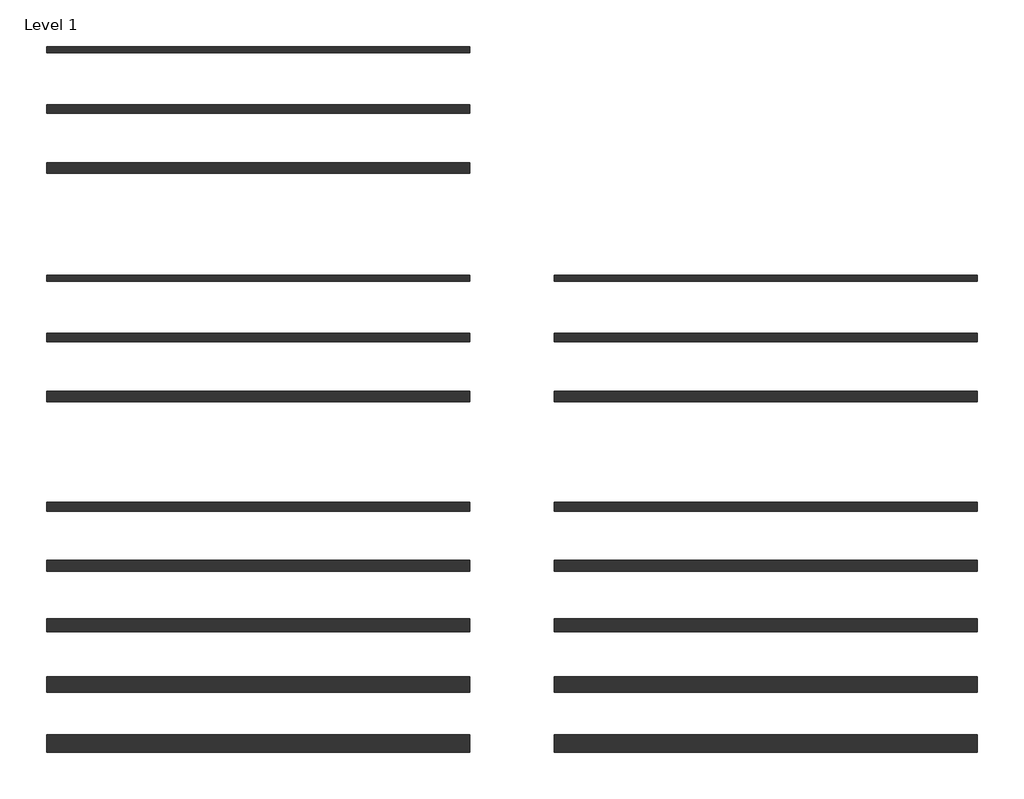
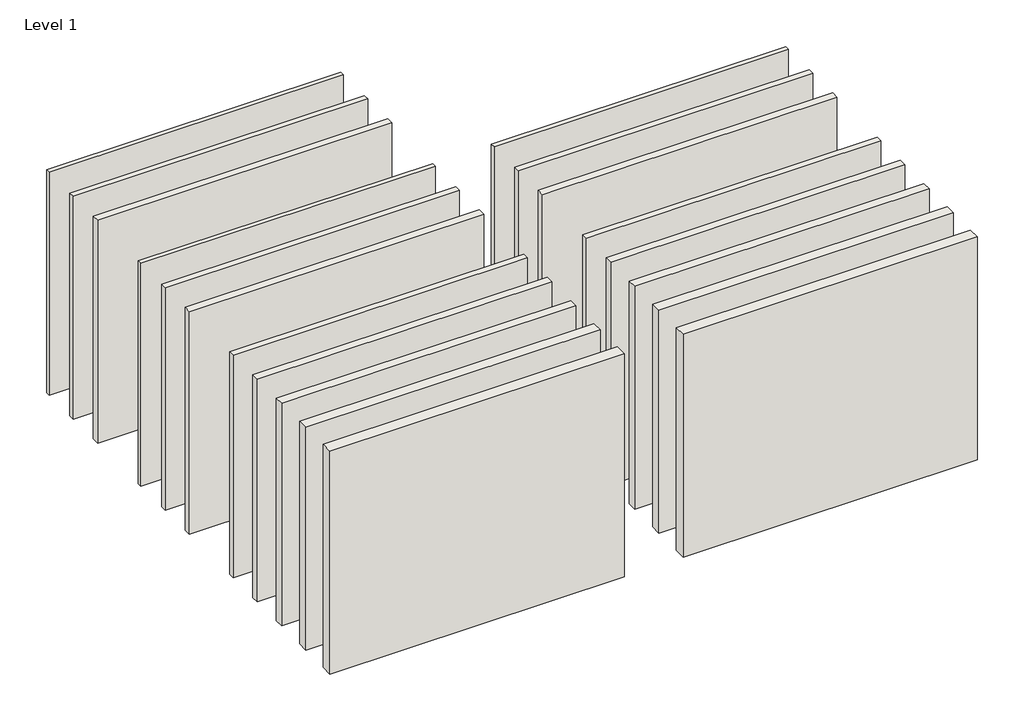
# One storey: 19 walls.
"""IFC4 building model written with IfcOpenShell, lengths in millimetres."""

import ifcopenshell
import ifcopenshell.guid

model = None  # the IFC model being written
_history = None  # IfcOwnerHistory: only IFC2X3 demands one
_inside = {}  # id of a spatial element -> (the spatial element, [elements in it])
_under = {}  # id of a project, library or spatial element -> (it, [spatial elements below it])
_declared = {}  # id of a project -> (the project, [libraries it declares])
_typed = {}  # id of a type object -> (the type object, [elements of that type])
_made_of = {}  # id of a material, layer set ... -> (it, [elements and type objects made of it])


def new_model(schema):
    """Start an empty IFC model of exactly this schema.

    Asked for "IFC4X3", IfcOpenShell would pick the latest addendum, in which some entities
    have other attributes; the version numbers below select the first issue.
    IFC2X3 requires an IfcOwnerHistory on every rooted entity: one is made here for all.
    """
    global model, _history
    if schema == "IFC4X3":
        model = ifcopenshell.file(schema_version=(4, 3, 0, 0))
    else:
        model = ifcopenshell.file(schema=schema)
    _inside.clear()
    _under.clear()
    _declared.clear()
    _typed.clear()
    _made_of.clear()
    _history = None
    if model.schema == "IFC2X3":
        org = make("IfcOrganization", Name="unknown")
        user = make(
            "IfcPersonAndOrganization",
            ThePerson=make("IfcPerson", FamilyName="unknown"),
            TheOrganization=org,
        )
        app = make(
            "IfcApplication",
            ApplicationDeveloper=org,
            Version="unknown",
            ApplicationFullName="unknown",
            ApplicationIdentifier="unknown",
        )
        _history = make(
            "IfcOwnerHistory",
            OwningUser=user,
            OwningApplication=app,
            ChangeAction="ADDED",
            CreationDate=0,
        )
    return model


def make(cls, **values):
    """One entity of the class cls with the attributes given. An attribute that is None is left unset."""
    return model.create_entity(
        cls, **{name: value for name, value in values.items() if value is not None}
    )


def rooted(cls, **values):
    """An entity with a GlobalId (a new one), such as an element, a storey or a relation."""
    return make(cls, GlobalId=ifcopenshell.guid.new(), OwnerHistory=_history, **values)


def si_unit(unit_type, name, prefix=None):
    """IfcSIUnit, for example si_unit("LENGTHUNIT", "METRE", prefix="MILLI")."""
    return make("IfcSIUnit", UnitType=unit_type, Prefix=prefix, Name=name)


def assignment(units):
    """IfcUnitAssignment: the units of a project."""
    return None if units is None else make("IfcUnitAssignment", Units=units)


def point(xyz):
    """IfcCartesianPoint."""
    return None if xyz is None else make("IfcCartesianPoint", Coordinates=xyz)


def direction(xyz):
    """IfcDirection."""
    return None if xyz is None else make("IfcDirection", DirectionRatios=xyz)


def frame(location, z_axis=None, x_axis=None):
    """IfcAxis2Placement3D, a coordinate frame: its origin and axes. An axis left out is left unset."""
    return make(
        "IfcAxis2Placement3D",
        Location=point(location),
        Axis=direction(z_axis),
        RefDirection=direction(x_axis),
    )


def origin():
    """The frame at (0, 0, 0) with its axes left unset."""
    return frame((0.0, 0.0, 0.0))


def origin_with_axes():
    """The frame at (0, 0, 0) with the z axis (0, 0, 1) and the x axis (1, 0, 0) written out."""
    return frame((0.0, 0.0, 0.0), z_axis=(0.0, 0.0, 1.0), x_axis=(1.0, 0.0, 0.0))


def place(relative_to, where):
    """IfcLocalPlacement: puts the frame where relative to a parent placement (None: the world)."""
    return make(
        "IfcLocalPlacement", PlacementRelTo=relative_to, RelativePlacement=where
    )


def context(
    kind, dimensions, precision=None, world=None, true_north=None, identifier=None
):
    """IfcGeometricRepresentationContext, for example the 3D "Model" context."""
    return make(
        "IfcGeometricRepresentationContext",
        ContextIdentifier=identifier,
        ContextType=kind,
        CoordinateSpaceDimension=dimensions,
        Precision=precision,
        WorldCoordinateSystem=world,
        TrueNorth=true_north,
    )


def project(units=None, contexts=None):
    """IfcProject with its units and contexts."""
    return rooted(
        "IfcProject",
        Name="project",
        RepresentationContexts=contexts,
        UnitsInContext=assignment(units),
    )


def spatial(cls, under=None, at=None, **own):
    """A site, building, storey or space (cls), placed at a placement, below another one or the project."""
    s = rooted(cls, ObjectPlacement=at, **own)
    if under is not None:
        _under.setdefault(under.id(), (under, []))[1].append(s)
    return s


def polyline(points):
    """IfcPolyline through the points."""
    return make("IfcPolyline", Points=[point(p) for p in points])


def outline(outer, holes=None, kind="AREA"):
    """IfcArbitraryClosedProfileDef: a profile drawn as a closed curve; with holes, ...WithVoids."""
    if holes is None:
        return make("IfcArbitraryClosedProfileDef", ProfileType=kind, OuterCurve=outer)
    return make(
        "IfcArbitraryProfileDefWithVoids",
        ProfileType=kind,
        OuterCurve=outer,
        InnerCurves=holes,
    )


def extrude(swept, where, along, depth):
    """IfcExtrudedAreaSolid: the profile swept, set in the frame where, extruded along a direction by depth."""
    return make(
        "IfcExtrudedAreaSolid",
        SweptArea=swept,
        Position=where,
        ExtrudedDirection=direction(along),
        Depth=depth,
    )


def shape(context_of_items, identifier, shape_type, items):
    """IfcShapeRepresentation: the items that make up one representation, for example the "Body"."""
    return make(
        "IfcShapeRepresentation",
        ContextOfItems=context_of_items,
        RepresentationIdentifier=identifier,
        RepresentationType=shape_type,
        Items=items,
    )


def made_of(thing, what):
    """Note that an element or type object is made of a material, layer set ...; save() writes the relation."""
    if what is not None:
        _made_of.setdefault(what.id(), (what, []))[1].append(thing)
    return thing


def element(
    cls,
    number,
    at=None,
    inside=None,
    cuts=None,
    type_object=None,
    material=None,
    context=None,
    identifier="Body",
    shape_type=None,
    held_by="IfcProductDefinitionShape",
    body=None,
    shapes=None,
    **own,
):
    """One element of the class cls, such as IfcWall. Its Tag is "e" and its number.

    at: its placement. inside: the storey or other place that contains it. cuts: it is an
    opening in that element (IfcRelVoidsElement). A single representation is given by context,
    identifier, shape_type and body (its items); several are given by shapes. held_by: the class
    of the entity that holds the representations. save() writes the other relations.
    """
    e = rooted(cls, Tag="e%d" % number, ObjectPlacement=at, **own)
    if body is not None:
        shapes = [shape(context, identifier, shape_type, body)]
    if shapes is not None:
        e.Representation = make(held_by, Representations=shapes)
    if inside is not None:
        _inside.setdefault(inside.id(), (inside, []))[1].append(e)
    if cuts is not None:
        rooted(
            "IfcRelVoidsElement", RelatingBuildingElement=cuts, RelatedOpeningElement=e
        )
    if type_object is not None:
        _typed.setdefault(type_object.id(), (type_object, []))[1].append(e)
    return made_of(e, material)


def aggregate(whole, parts):
    """IfcRelAggregates: a whole, such as a stair, and the parts it consists of."""
    return rooted("IfcRelAggregates", RelatingObject=whole, RelatedObjects=parts)


def save(model, path):
    """Write the relations noted so far, then the file.

    IfcRelAggregates (storeys below a building ...), IfcRelContainedInSpatialStructure (elements
    in a storey), IfcRelDefinesByType, IfcRelAssociatesMaterial and IfcRelDeclares: one each for
    every whole, place, type object, material and project.
    """
    for whole, parts in _under.values():
        aggregate(whole, parts)
    for where, things in _inside.values():
        rooted(
            "IfcRelContainedInSpatialStructure",
            RelatedElements=things,
            RelatingStructure=where,
        )
    for kind, things in _typed.values():
        rooted("IfcRelDefinesByType", RelatedObjects=things, RelatingType=kind)
    for what, things in _made_of.values():
        rooted("IfcRelAssociatesMaterial", RelatedObjects=things, RelatingMaterial=what)
    for by, libraries in _declared.values():
        rooted("IfcRelDeclares", RelatingContext=by, RelatedDefinitions=libraries)
    model.write(path)


model = new_model("IFC4")

# Units and contexts
model_context = context("Model", 3, world=origin())
ifc_project = project(units=[si_unit("LENGTHUNIT", "METRE", prefix="MILLI")], contexts=[model_context])

# Site, building, storey
site = spatial("IfcSite", under=ifc_project)
building = spatial("IfcBuilding", under=site)
storey = spatial("IfcBuildingStorey", under=building, Name="Level 1", Elevation=0.0)

# Walls
placement = place(None, origin())
element("IfcWall", 1, ObjectType="Knauf Danogips E T600 45/45 - /FF M0", at=placement, inside=storey, context=model_context, shape_type="SweptSolid", body=[
    extrude(outline(polyline([(-12781.2795625, 11676.8559755), (-17781.2795625, 11676.8559755), (-17781.2795625, 11751.8559755), (-12781.2795625, 11751.8559755), (-12781.2795625, 11676.8559755)])), origin_with_axes(), (0.0, 0.0, 1.0), 4000.0),
])
element("IfcWall", 2, ObjectType="Knauf Danogips E T600 70/70 - /FF M0", at=placement, inside=storey, context=model_context, shape_type="SweptSolid", body=[
    extrude(outline(polyline([(-12781.2795625, 10964.3559755), (-17781.2795625, 10964.3559755), (-17781.2795625, 11064.3559755), (-12781.2795625, 11064.3559755), (-12781.2795625, 10964.3559755)])), origin_with_axes(), (0.0, 0.0, 1.0), 4000.0),
])
element("IfcWall", 3, ObjectType="Knauf Danogips E T600 95/95 - /FF M0", at=placement, inside=storey, context=model_context, shape_type="SweptSolid", body=[
    extrude(outline(polyline([(-12781.2795625, 10251.8559755), (-17781.2795625, 10251.8559755), (-17781.2795625, 10376.8559755), (-12781.2795625, 10376.8559755), (-12781.2795625, 10251.8559755)])), origin_with_axes(), (0.0, 0.0, 1.0), 4000.0),
])
element("IfcWall", 4, ObjectType="Knauf Danogips E T600 45/45 F/F M0", at=placement, inside=storey, context=model_context, shape_type="SweptSolid", body=[
    extrude(outline(polyline([(-12781.2795625, 8976.8559755), (-17781.2795625, 8976.8559755), (-17781.2795625, 9051.8559755), (-12781.2795625, 9051.8559755), (-12781.2795625, 8976.8559755)])), origin_with_axes(), (0.0, 0.0, 1.0), 4000.0),
])
element("IfcWall", 5, ObjectType="Knauf Danogips E T600 70/70 F/F M0", at=placement, inside=storey, context=model_context, shape_type="SweptSolid", body=[
    extrude(outline(polyline([(-12781.2795625, 8264.3559755), (-17781.2795625, 8264.3559755), (-17781.2795625, 8364.3559755), (-12781.2795625, 8364.3559755), (-12781.2795625, 8264.3559755)])), origin_with_axes(), (0.0, 0.0, 1.0), 4000.0),
])
element("IfcWall", 6, ObjectType="Knauf Danogips E T600 95/95 F/F M0", at=placement, inside=storey, context=model_context, shape_type="SweptSolid", body=[
    extrude(outline(polyline([(-12781.2795625, 7551.8559755), (-17781.2795625, 7551.8559755), (-17781.2795625, 7676.8559755), (-12781.2795625, 7676.8559755), (-12781.2795625, 7551.8559755)])), origin_with_axes(), (0.0, 0.0, 1.0), 4000.0),
])
element("IfcWall", 7, ObjectType="Knauf Danogips E T600 45/45 F/F M45", at=placement, inside=storey, context=model_context, shape_type="SweptSolid", body=[
    extrude(outline(polyline([(-6781.2795625, 8976.8559755), (-11781.2795625, 8976.8559755), (-11781.2795625, 9051.8559755), (-6781.2795625, 9051.8559755), (-6781.2795625, 8976.8559755)])), origin_with_axes(), (0.0, 0.0, 1.0), 4000.0),
])
element("IfcWall", 8, ObjectType="Knauf Danogips E T600 70/70 F/F M45", at=placement, inside=storey, context=model_context, shape_type="SweptSolid", body=[
    extrude(outline(polyline([(-6781.2795625, 8264.3559755), (-11781.2795625, 8264.3559755), (-11781.2795625, 8364.3559755), (-6781.2795625, 8364.3559755), (-6781.2795625, 8264.3559755)])), origin_with_axes(), (0.0, 0.0, 1.0), 4000.0),
])
element("IfcWall", 9, ObjectType="Knauf Danogips E T600 95/95 F/F M45", at=placement, inside=storey, context=model_context, shape_type="SweptSolid", body=[
    extrude(outline(polyline([(-6781.2795625, 7551.8559755), (-11781.2795625, 7551.8559755), (-11781.2795625, 7676.8559755), (-6781.2795625, 7676.8559755), (-6781.2795625, 7551.8559755)])), origin_with_axes(), (0.0, 0.0, 1.0), 4000.0),
])
element("IfcWall", 10, ObjectType="Knauf Danogips E T600 45/45 FF/FF M0", at=placement, inside=storey, context=model_context, shape_type="SweptSolid", body=[
    extrude(outline(polyline([(-12781.2795625, 6261.8559755), (-17781.2795625, 6261.8559755), (-17781.2795625, 6366.8559755), (-12781.2795625, 6366.8559755), (-12781.2795625, 6261.8559755)])), origin_with_axes(), (0.0, 0.0, 1.0), 4000.0),
])
element("IfcWall", 11, ObjectType="Knauf Danogips E T600 70/70 FF/FF M0", at=placement, inside=storey, context=model_context, shape_type="SweptSolid", body=[
    extrude(outline(polyline([(-12781.2795625, 5549.3559755), (-17781.2795625, 5549.3559755), (-17781.2795625, 5679.3559755), (-12781.2795625, 5679.3559755), (-12781.2795625, 5549.3559755)])), origin_with_axes(), (0.0, 0.0, 1.0), 4000.0),
])
element("IfcWall", 12, ObjectType="Knauf Danogips E T600 95/95 FF/FF M0", at=placement, inside=storey, context=model_context, shape_type="SweptSolid", body=[
    extrude(outline(polyline([(-12781.2795625, 4836.8559755), (-17781.2795625, 4836.8559755), (-17781.2795625, 4991.8559755), (-12781.2795625, 4991.8559755), (-12781.2795625, 4836.8559755)])), origin_with_axes(), (0.0, 0.0, 1.0), 4000.0),
])
element("IfcWall", 13, ObjectType="Knauf Danogips E T600 120/120 FF/FF M0", at=placement, inside=storey, context=model_context, shape_type="SweptSolid", body=[
    extrude(outline(polyline([(-12781.2795625, 4124.3559755), (-17781.2795625, 4124.3559755), (-17781.2795625, 4304.3559755), (-12781.2795625, 4304.3559755), (-12781.2795625, 4124.3559755)])), origin_with_axes(), (0.0, 0.0, 1.0), 4000.0),
])
element("IfcWall", 14, ObjectType="Knauf Danogips E T600 145/145 FF/FF M0", at=placement, inside=storey, context=model_context, shape_type="SweptSolid", body=[
    extrude(outline(polyline([(-12781.2795625, 3411.8559755), (-17781.2795625, 3411.8559755), (-17781.2795625, 3616.8559755), (-12781.2795625, 3616.8559755), (-12781.2795625, 3411.8559755)])), origin_with_axes(), (0.0, 0.0, 1.0), 4000.0),
])
element("IfcWall", 15, ObjectType="Knauf Danogips E T600 45/45 FF/FF M45", at=placement, inside=storey, context=model_context, shape_type="SweptSolid", body=[
    extrude(outline(polyline([(-6781.2795625, 6261.8559755), (-11781.2795625, 6261.8559755), (-11781.2795625, 6366.8559755), (-6781.2795625, 6366.8559755), (-6781.2795625, 6261.8559755)])), origin_with_axes(), (0.0, 0.0, 1.0), 4000.0),
])
element("IfcWall", 16, ObjectType="Knauf Danogips E T600 70/70 FF/FF M45", at=placement, inside=storey, context=model_context, shape_type="SweptSolid", body=[
    extrude(outline(polyline([(-6781.2795625, 5549.3559755), (-11781.2795625, 5549.3559755), (-11781.2795625, 5679.3559755), (-6781.2795625, 5679.3559755), (-6781.2795625, 5549.3559755)])), origin_with_axes(), (0.0, 0.0, 1.0), 4000.0),
])
element("IfcWall", 17, ObjectType="Knauf Danogips E T600 95/95 FF/FF M45", at=placement, inside=storey, context=model_context, shape_type="SweptSolid", body=[
    extrude(outline(polyline([(-6781.2795625, 4836.8559755), (-11781.2795625, 4836.8559755), (-11781.2795625, 4991.8559755), (-6781.2795625, 4991.8559755), (-6781.2795625, 4836.8559755)])), origin_with_axes(), (0.0, 0.0, 1.0), 4000.0),
])
element("IfcWall", 18, ObjectType="Knauf Danogips E T600 120/120 FF/FF M45", at=placement, inside=storey, context=model_context, shape_type="SweptSolid", body=[
    extrude(outline(polyline([(-6781.2795625, 4124.3559755), (-11781.2795625, 4124.3559755), (-11781.2795625, 4304.3559755), (-6781.2795625, 4304.3559755), (-6781.2795625, 4124.3559755)])), origin_with_axes(), (0.0, 0.0, 1.0), 4000.0),
])
element("IfcWall", 19, ObjectType="Knauf Danogips E T600 145/145 FF/FF M45", at=placement, inside=storey, context=model_context, shape_type="SweptSolid", body=[
    extrude(outline(polyline([(-6781.2795625, 3411.8559755), (-11781.2795625, 3411.8559755), (-11781.2795625, 3616.8559755), (-6781.2795625, 3616.8559755), (-6781.2795625, 3411.8559755)])), origin_with_axes(), (0.0, 0.0, 1.0), 4000.0),
])

save(model, "model.ifc")
